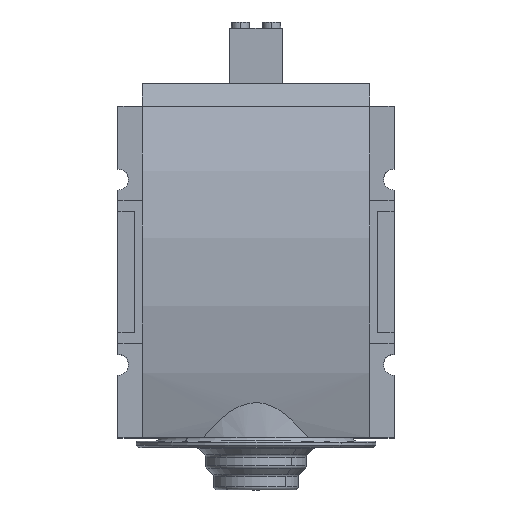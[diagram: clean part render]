
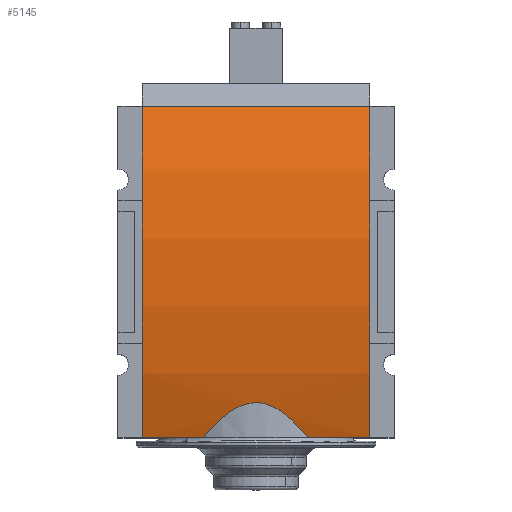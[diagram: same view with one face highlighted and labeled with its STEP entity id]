
A CAD part, top view. The second image highlights one B-rep face of the part: STEP entity #5145.
In plain terms, the highlighted cylindrical face has radius 150 mm (diameter 300 mm), a partial arc.
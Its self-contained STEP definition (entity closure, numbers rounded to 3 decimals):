
#105=CARTESIAN_POINT('',(-35.,0.,-98.5));
#106=DIRECTION('',(1.,0.,0.));
#107=DIRECTION('',(0.,0.34,0.94));
#108=AXIS2_PLACEMENT_3D('',#105,#106,#107);
#994=CARTESIAN_POINT('',(35.,0.,-98.5));
#995=DIRECTION('',(1.,0.,0.));
#996=DIRECTION('',(0.,0.34,0.94));
#997=AXIS2_PLACEMENT_3D('',#994,#995,#996);
#1088=DIRECTION('',(1.,0.,0.));
#1089=VECTOR('',#1088,18.78);
#1090=CARTESIAN_POINT('',(-35.,-51.,42.564));
#1091=LINE('887',#1090,#1089);
#1103=DIRECTION('',(1.,0.,0.));
#1104=VECTOR('',#1103,18.78);
#1105=CARTESIAN_POINT('',(16.22,-51.,42.564));
#1106=LINE('888',#1105,#1104);
#1763=DIRECTION('',(1.,0.,0.));
#1764=VECTOR('',#1763,70.);
#1765=CARTESIAN_POINT('',(-35.,51.,42.564));
#1766=LINE('28',#1765,#1764);
#1770=CARTESIAN_POINT('',(16.22,-51.,42.564));
#1771=CARTESIAN_POINT('',(15.79,-50.472,42.755));
#1772=CARTESIAN_POINT('',(14.952,-49.476,43.108));
#1773=CARTESIAN_POINT('',(13.777,-48.164,43.559));
#1774=CARTESIAN_POINT('',(12.676,-47.013,43.944));
#1775=CARTESIAN_POINT('',(11.646,-46.006,44.272));
#1776=CARTESIAN_POINT('',(10.681,-45.128,44.552));
#1777=CARTESIAN_POINT('',(9.774,-44.361,44.791));
#1778=CARTESIAN_POINT('',(8.921,-43.694,44.996));
#1779=CARTESIAN_POINT('',(8.117,-43.115,45.171));
#1780=CARTESIAN_POINT('',(7.352,-42.61,45.321));
#1781=CARTESIAN_POINT('',(6.626,-42.173,45.45));
#1782=CARTESIAN_POINT('',(5.933,-41.796,45.56));
#1783=CARTESIAN_POINT('',(5.269,-41.471,45.653));
#1784=CARTESIAN_POINT('',(4.626,-41.192,45.733));
#1785=CARTESIAN_POINT('',(4.004,-40.955,45.801));
#1786=CARTESIAN_POINT('',(3.4,-40.757,45.857));
#1787=CARTESIAN_POINT('',(2.811,-40.595,45.903));
#1788=CARTESIAN_POINT('',(2.235,-40.465,45.939));
#1789=CARTESIAN_POINT('',(1.669,-40.366,45.966));
#1790=CARTESIAN_POINT('',(1.109,-40.297,45.986));
#1791=CARTESIAN_POINT('',(0.553,-40.255,
45.997));
#1792=CARTESIAN_POINT('',(0.,-40.242,
46.001));
#1793=CARTESIAN_POINT('',(-0.553,-40.255,
45.997));
#1794=CARTESIAN_POINT('',(-1.109,-40.297,
45.986));
#1795=CARTESIAN_POINT('',(-1.669,-40.366,
45.966));
#1796=CARTESIAN_POINT('',(-2.235,-40.465,
45.939));
#1797=CARTESIAN_POINT('',(-2.811,-40.595,
45.903));
#1798=CARTESIAN_POINT('',(-3.4,-40.757,
45.857));
#1799=CARTESIAN_POINT('',(-4.004,-40.955,
45.801));
#1800=CARTESIAN_POINT('',(-4.626,-41.192,
45.733));
#1801=CARTESIAN_POINT('',(-5.269,-41.471,
45.653));
#1802=CARTESIAN_POINT('',(-5.933,-41.796,
45.559));
#1803=CARTESIAN_POINT('',(-6.626,-42.173,
45.45));
#1804=CARTESIAN_POINT('',(-7.352,-42.61,
45.321));
#1805=CARTESIAN_POINT('',(-8.117,-43.115,
45.171));
#1806=CARTESIAN_POINT('',(-8.921,-43.694,
44.996));
#1807=CARTESIAN_POINT('',(-9.774,-44.361,
44.791));
#1808=CARTESIAN_POINT('',(-10.681,-45.128,
44.552));
#1809=CARTESIAN_POINT('',(-11.646,-46.006,
44.272));
#1810=CARTESIAN_POINT('',(-12.676,-47.013,
43.944));
#1811=CARTESIAN_POINT('',(-13.777,-48.164,
43.559));
#1812=CARTESIAN_POINT('',(-14.952,-49.476,
43.108));
#1813=CARTESIAN_POINT('',(-15.79,-50.472,
42.755));
#1814=CARTESIAN_POINT('',(-16.22,-51.,42.564));
#2819=CARTESIAN_POINT('',(-35.,51.,42.564));
#2820=CARTESIAN_POINT('',(-35.,-51.,42.564));
#2821=VERTEX_POINT('',#2819);
#2822=VERTEX_POINT('',#2820);
#2827=CARTESIAN_POINT('',(35.,51.,42.564));
#2828=CARTESIAN_POINT('',(35.,-51.,42.564));
#2829=VERTEX_POINT('',#2827);
#2830=VERTEX_POINT('',#2828);
#2907=CARTESIAN_POINT('',(-16.22,-51.,42.564));
#2908=VERTEX_POINT('',#2907);
#2909=CARTESIAN_POINT('',(16.22,-51.,42.564));
#2910=VERTEX_POINT('',#2909);
#5131=CARTESIAN_POINT('',(-35.,0.,-98.5));
#5132=DIRECTION('',(1.,0.,0.));
#5133=DIRECTION('',(0.,0.,-1.));
#5134=AXIS2_PLACEMENT_3D('',#5131,#5132,#5133);
#5135=CYLINDRICAL_SURFACE('27',#5134,150.);
#5136=ORIENTED_EDGE('887',*,*,#4346,.F.);
#5137=ORIENTED_EDGE('18',*,*,#3348,.F.);
#5138=ORIENTED_EDGE('28',*,*,#4603,.T.);
#5139=ORIENTED_EDGE('23',*,*,#4271,.T.);
#5140=ORIENTED_EDGE('888',*,*,#4350,.F.);
#5142=ORIENTED_EDGE('13188',*,*,#5141,.T.);
#5143=EDGE_LOOP('27',(#5136,#5137,#5138,#5139,#5140,#5142));
#5144=FACE_OUTER_BOUND('27',#5143,.F.);
#5145=ADVANCED_FACE('27',(#5144),#5135,.T.);
#109=CIRCLE('18',#108,150.);
#998=CIRCLE('23',#997,150.);
#1815=B_SPLINE_CURVE_WITH_KNOTS('13188',3,(#1770,#1771,#1772,#1773,#1774,#1775,
#1776,#1777,#1778,#1779,#1780,#1781,#1782,#1783,#1784,#1785,#1786,#1787,#1788,
#1789,#1790,#1791,#1792,#1793,#1794,#1795,#1796,#1797,#1798,#1799,#1800,#1801,
#1802,#1803,#1804,#1805,#1806,#1807,#1808,#1809,#1810,#1811,#1812,#1813,#1814),
.UNSPECIFIED.,.F.,.F.,(4,1,1,1,1,1,1,1,1,1,1,1,1,1,1,1,1,1,1,1,1,1,1,1,1,1,1,1,
1,1,1,1,1,1,1,1,1,1,1,1,1,1,4),(0.,0.024,0.048,
0.071,0.095,0.119,0.143,
0.167,0.19,0.214,0.238,
0.262,0.286,0.31,0.333,
0.357,0.381,0.405,0.429,
0.452,0.476,0.5,0.524,0.548,
0.571,0.595,0.619,0.643,
0.667,0.69,0.714,0.738,
0.762,0.786,0.81,0.833,
0.857,0.881,0.905,0.929,
0.952,0.976,1.),.UNSPECIFIED.);
#3348=EDGE_CURVE('18',#2821,#2822,#109,.T.);
#4271=EDGE_CURVE('23',#2829,#2830,#998,.T.);
#4346=EDGE_CURVE('887',#2822,#2908,#1091,.T.);
#4350=EDGE_CURVE('888',#2910,#2830,#1106,.T.);
#4603=EDGE_CURVE('28',#2821,#2829,#1766,.T.);
#5141=EDGE_CURVE('13188',#2910,#2908,#1815,.T.);
